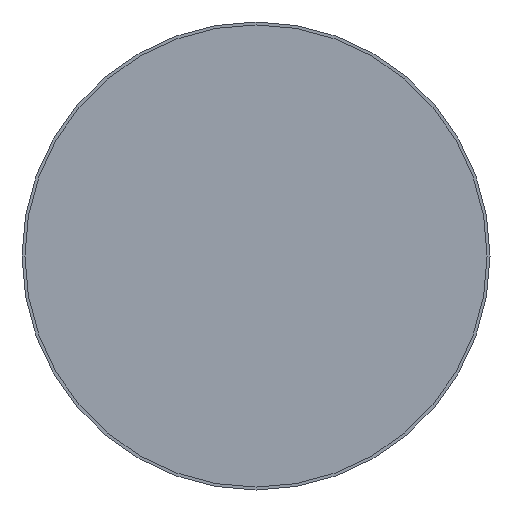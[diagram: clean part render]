
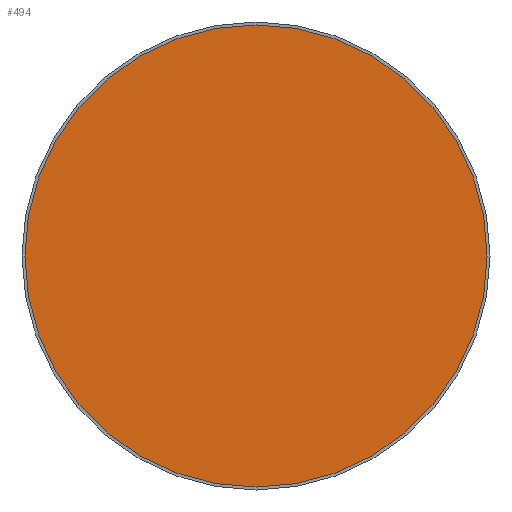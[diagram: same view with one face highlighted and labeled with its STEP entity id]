
A CAD part, front view. The second image highlights one B-rep face of the part: STEP entity #494.
In plain terms, the highlighted planar face has unit normal (0, -1, 0).
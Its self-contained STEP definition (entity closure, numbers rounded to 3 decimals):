
#1=CARTESIAN_POINT('',(0.,0.,0.));
#2=DIRECTION('',(0.,-1.,0.));
#3=DIRECTION('',(1.,0.,0.));
#4=AXIS2_PLACEMENT_3D('',#1,#2,#3);
#14=CARTESIAN_POINT('',(0.,0.,0.));
#15=DIRECTION('',(0.,1.,0.));
#16=DIRECTION('',(1.,0.,0.));
#17=AXIS2_PLACEMENT_3D('',#14,#15,#16);
#375=CARTESIAN_POINT('',(39.5,0.,0.));
#377=VERTEX_POINT('',#375);
#389=CARTESIAN_POINT('',(-39.5,0.,0.));
#391=VERTEX_POINT('',#389);
#483=CARTESIAN_POINT('',(0.,0.,0.));
#484=DIRECTION('',(0.,-1.,0.));
#485=DIRECTION('',(-1.,0.,0.));
#486=AXIS2_PLACEMENT_3D('',#483,#484,#485);
#487=PLANE('',#486);
#489=ORIENTED_EDGE('',*,*,#488,.F.);
#491=ORIENTED_EDGE('',*,*,#490,.T.);
#492=EDGE_LOOP('',(#489,#491));
#493=FACE_OUTER_BOUND('',#492,.F.);
#494=ADVANCED_FACE('',(#493),#487,.T.);
#5=CIRCLE('',#4,39.5);
#18=CIRCLE('',#17,39.5);
#488=EDGE_CURVE('',#377,#391,#5,.T.);
#490=EDGE_CURVE('',#377,#391,#18,.T.);
